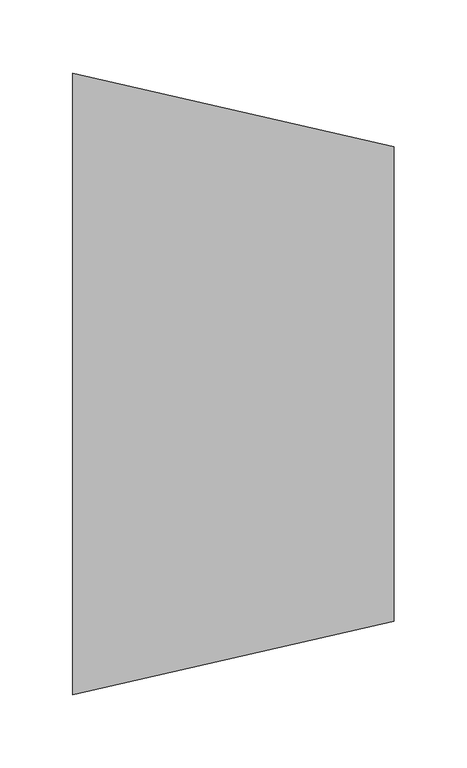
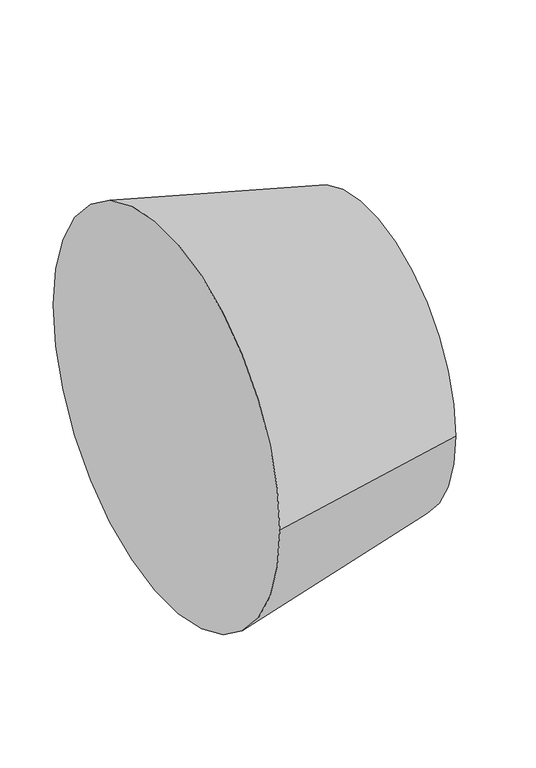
"""IFC4 building model written with IfcOpenShell, lengths in millimetres: pipe fitting geometry, ADSK_ДетальСтальнаяСварная_Переход_ГОСТ17378-2001 : Исполнение 2."""

import ifcopenshell
import ifcopenshell.guid

model = None  # the IFC model being written
_history = None  # IfcOwnerHistory: only IFC2X3 demands one
_inside = {}  # id of a spatial element -> (the spatial element, [elements in it])
_under = {}  # id of a project, library or spatial element -> (it, [spatial elements below it])
_declared = {}  # id of a project -> (the project, [libraries it declares])
_typed = {}  # id of a type object -> (the type object, [elements of that type])
_made_of = {}  # id of a material, layer set ... -> (it, [elements and type objects made of it])


def new_model(schema):
    """Start an empty IFC model of exactly this schema.

    Asked for "IFC4X3", IfcOpenShell would pick the latest addendum, in which some entities
    have other attributes; the version numbers below select the first issue.
    IFC2X3 requires an IfcOwnerHistory on every rooted entity: one is made here for all.
    """
    global model, _history
    if schema == "IFC4X3":
        model = ifcopenshell.file(schema_version=(4, 3, 0, 0))
    else:
        model = ifcopenshell.file(schema=schema)
    _inside.clear()
    _under.clear()
    _declared.clear()
    _typed.clear()
    _made_of.clear()
    _history = None
    if model.schema == "IFC2X3":
        org = make("IfcOrganization", Name="unknown")
        user = make(
            "IfcPersonAndOrganization",
            ThePerson=make("IfcPerson", FamilyName="unknown"),
            TheOrganization=org,
        )
        app = make(
            "IfcApplication",
            ApplicationDeveloper=org,
            Version="unknown",
            ApplicationFullName="unknown",
            ApplicationIdentifier="unknown",
        )
        _history = make(
            "IfcOwnerHistory",
            OwningUser=user,
            OwningApplication=app,
            ChangeAction="ADDED",
            CreationDate=0,
        )
    return model


def make(cls, **values):
    """One entity of the class cls with the attributes given. An attribute that is None is left unset."""
    return model.create_entity(
        cls, **{name: value for name, value in values.items() if value is not None}
    )


def rooted(cls, **values):
    """An entity with a GlobalId (a new one), such as an element, a storey or a relation."""
    return make(cls, GlobalId=ifcopenshell.guid.new(), OwnerHistory=_history, **values)


def si_unit(unit_type, name, prefix=None):
    """IfcSIUnit, for example si_unit("LENGTHUNIT", "METRE", prefix="MILLI")."""
    return make("IfcSIUnit", UnitType=unit_type, Prefix=prefix, Name=name)


def assignment(units):
    """IfcUnitAssignment: the units of a project."""
    return None if units is None else make("IfcUnitAssignment", Units=units)


def point(xyz):
    """IfcCartesianPoint."""
    return None if xyz is None else make("IfcCartesianPoint", Coordinates=xyz)


def direction(xyz):
    """IfcDirection."""
    return None if xyz is None else make("IfcDirection", DirectionRatios=xyz)


def frame(location, z_axis=None, x_axis=None):
    """IfcAxis2Placement3D, a coordinate frame: its origin and axes. An axis left out is left unset."""
    return make(
        "IfcAxis2Placement3D",
        Location=point(location),
        Axis=direction(z_axis),
        RefDirection=direction(x_axis),
    )


def origin():
    """The frame at (0, 0, 0) with its axes left unset."""
    return frame((0.0, 0.0, 0.0))


def place(relative_to, where):
    """IfcLocalPlacement: puts the frame where relative to a parent placement (None: the world)."""
    return make(
        "IfcLocalPlacement", PlacementRelTo=relative_to, RelativePlacement=where
    )


def context(
    kind, dimensions, precision=None, world=None, true_north=None, identifier=None
):
    """IfcGeometricRepresentationContext, for example the 3D "Model" context."""
    return make(
        "IfcGeometricRepresentationContext",
        ContextIdentifier=identifier,
        ContextType=kind,
        CoordinateSpaceDimension=dimensions,
        Precision=precision,
        WorldCoordinateSystem=world,
        TrueNorth=true_north,
    )


def project(units=None, contexts=None):
    """IfcProject with its units and contexts."""
    return rooted(
        "IfcProject",
        Name="project",
        RepresentationContexts=contexts,
        UnitsInContext=assignment(units),
    )


def spatial(cls, under=None, at=None, **own):
    """A site, building, storey or space (cls), placed at a placement, below another one or the project."""
    s = rooted(cls, ObjectPlacement=at, **own)
    if under is not None:
        _under.setdefault(under.id(), (under, []))[1].append(s)
    return s


def polyline(points):
    """IfcPolyline through the points."""
    return make("IfcPolyline", Points=[point(p) for p in points])


def circle_curve(where, radius):
    """IfcCircle in the frame where."""
    return make("IfcCircle", Position=where, Radius=radius)


def shape(context_of_items, identifier, shape_type, items):
    """IfcShapeRepresentation: the items that make up one representation, for example the "Body"."""
    return make(
        "IfcShapeRepresentation",
        ContextOfItems=context_of_items,
        RepresentationIdentifier=identifier,
        RepresentationType=shape_type,
        Items=items,
    )


def source(mapping_origin, context_of_items, identifier, shape_type, items):
    """IfcRepresentationMap: a shape defined once, which mapped items show again and again."""
    return make(
        "IfcRepresentationMap",
        MappingOrigin=mapping_origin,
        MappedRepresentation=shape(context_of_items, identifier, shape_type, items),
    )


def transform(
    local_origin,
    x_axis=None,
    y_axis=None,
    z_axis=None,
    scale=None,
    scale2=None,
    scale3=None,
    uniform=True,
):
    """IfcCartesianTransformationOperator3D, or its non-uniform kind. x_axis, y_axis, z_axis: its Axis1, 2, 3."""
    if uniform:
        return make(
            "IfcCartesianTransformationOperator3D",
            Axis1=direction(x_axis),
            Axis2=direction(y_axis),
            LocalOrigin=point(local_origin),
            Scale=scale,
            Axis3=direction(z_axis),
        )
    return make(
        "IfcCartesianTransformationOperator3DnonUniform",
        Axis1=direction(x_axis),
        Axis2=direction(y_axis),
        LocalOrigin=point(local_origin),
        Scale=scale,
        Axis3=direction(z_axis),
        Scale2=scale2,
        Scale3=scale3,
    )


def mapped(mapping_source, mapping_target):
    """IfcMappedItem: shows the shape of a source again, moved by a transform."""
    return make(
        "IfcMappedItem", MappingSource=mapping_source, MappingTarget=mapping_target
    )


def made_of(thing, what):
    """Note that an element or type object is made of a material, layer set ...; save() writes the relation."""
    if what is not None:
        _made_of.setdefault(what.id(), (what, []))[1].append(thing)
    return thing


def element(
    cls,
    number,
    at=None,
    inside=None,
    cuts=None,
    type_object=None,
    material=None,
    context=None,
    identifier="Body",
    shape_type=None,
    held_by="IfcProductDefinitionShape",
    body=None,
    shapes=None,
    **own,
):
    """One element of the class cls, such as IfcWall. Its Tag is "e" and its number.

    at: its placement. inside: the storey or other place that contains it. cuts: it is an
    opening in that element (IfcRelVoidsElement). A single representation is given by context,
    identifier, shape_type and body (its items); several are given by shapes. held_by: the class
    of the entity that holds the representations. save() writes the other relations.
    """
    e = rooted(cls, Tag="e%d" % number, ObjectPlacement=at, **own)
    if body is not None:
        shapes = [shape(context, identifier, shape_type, body)]
    if shapes is not None:
        e.Representation = make(held_by, Representations=shapes)
    if inside is not None:
        _inside.setdefault(inside.id(), (inside, []))[1].append(e)
    if cuts is not None:
        rooted(
            "IfcRelVoidsElement", RelatingBuildingElement=cuts, RelatedOpeningElement=e
        )
    if type_object is not None:
        _typed.setdefault(type_object.id(), (type_object, []))[1].append(e)
    return made_of(e, material)


def aggregate(whole, parts):
    """IfcRelAggregates: a whole, such as a stair, and the parts it consists of."""
    return rooted("IfcRelAggregates", RelatingObject=whole, RelatedObjects=parts)


def save(model, path):
    """Write the relations noted so far, then the file.

    IfcRelAggregates (storeys below a building ...), IfcRelContainedInSpatialStructure (elements
    in a storey), IfcRelDefinesByType, IfcRelAssociatesMaterial and IfcRelDeclares: one each for
    every whole, place, type object, material and project.
    """
    for whole, parts in _under.values():
        aggregate(whole, parts)
    for where, things in _inside.values():
        rooted(
            "IfcRelContainedInSpatialStructure",
            RelatedElements=things,
            RelatingStructure=where,
        )
    for kind, things in _typed.values():
        rooted("IfcRelDefinesByType", RelatedObjects=things, RelatingType=kind)
    for what, things in _made_of.values():
        rooted("IfcRelAssociatesMaterial", RelatedObjects=things, RelatingMaterial=what)
    for by, libraries in _declared.values():
        rooted("IfcRelDeclares", RelatingContext=by, RelatedDefinitions=libraries)
    model.write(path)


def plane_surface(at):
    """IfcPlane: the flat surface through the origin of the frame at, square to its z axis."""
    return make("IfcPlane", Position=at)


def revolved_surface(curve, axis_point, axis_direction):
    """IfcSurfaceOfRevolution: the curve turned about the line through axis_point along axis_direction."""
    return make(
        "IfcSurfaceOfRevolution",
        SweptCurve=make("IfcArbitraryOpenProfileDef", ProfileType="CURVE", Curve=curve),
        AxisPosition=make("IfcAxis1Placement", Location=point(axis_point), Axis=direction(axis_direction)),
    )


def advanced_brep(points, edges, surfaces, faces):
    """IfcAdvancedBrep: a solid bounded by faces that lie on surfaces and meet in shared edges.

    An edge is (start, end): straight between two places in points (the first is 0);
    or (start, end, curve); or (start, end, curve, False) where it runs against its curve.
    A face is (place in surfaces, loops), or (place, loops, False) where it looks against
    its surface's normal. A loop lists edges by number (the first is 1), with a minus sign
    where the edge is run from its end to its start. The first loop is the outer one.
    """
    corners = [point(p) for p in points]
    vertices = [make("IfcVertexPoint", VertexGeometry=c) for c in corners]
    made = []
    for start, end, *more in edges:
        made.append(
            make(
                "IfcEdgeCurve",
                EdgeStart=vertices[start],
                EdgeEnd=vertices[end],
                EdgeGeometry=more[0] if more else make("IfcPolyline", Points=[corners[start], corners[end]]),
                SameSense=more[1] if len(more) > 1 else True,
            )
        )
    hull = []
    for where, loops, *sense in faces:
        bounds = []
        for j, loop in enumerate(loops):
            ring = [make("IfcOrientedEdge", EdgeElement=made[abs(k) - 1], Orientation=k > 0) for k in loop]
            bounds.append(
                make(
                    "IfcFaceOuterBound" if j == 0 else "IfcFaceBound",
                    Bound=make("IfcEdgeLoop", EdgeList=ring),
                    Orientation=True,
                )
            )
        hull.append(make("IfcAdvancedFace", Bounds=bounds, FaceSurface=surfaces[where], SameSense=sense[0] if sense else True))
    return make("IfcAdvancedBrep", Outer=make("IfcClosedShell", CfsFaces=hull))


def pipe_fitting_65512c19(model_context):
    return source(origin(), model_context, "Body", "AdvancedBrep", [
        advanced_brep(
        [(220.0, -162.5, 0.0), (220.0, 162.5, 0.0), (0.0, -213.0, 0.0), (0.0, 213.0, 0.0)],
        [
            (0, 1, circle_curve(frame((220.0, 0.0, 0.0), z_axis=(1.0, 0.0, 0.0), x_axis=(0.0, -1.0, 0.0)), 162.5)),
            (1, 0, circle_curve(frame((220.0, 0.0, 0.0), z_axis=(1.0, 0.0, 0.0), x_axis=(0.0, 1.0, 0.0)), 162.5)),
            (2, 3, circle_curve(frame((0.0, 0.0, 0.0), z_axis=(-1.0, 0.0, 0.0), x_axis=(0.0, 1.0, 0.0)), 213.0)),
            (3, 2, circle_curve(frame((0.0, 0.0, 0.0), z_axis=(-1.0, 0.0, 0.0), x_axis=(0.0, -1.0, 0.0)), 213.0)),
            (3, 1),
            (0, 2),
        ],
        [
            plane_surface(frame((220.0, 0.0, 0.0), z_axis=(1.0, 0.0, 0.0), x_axis=(0.0, 0.0, -1.0))),
            plane_surface(frame((0.0, 0.0, 0.0), z_axis=(-1.0, 0.0, 0.0), x_axis=(0.0, 0.0, -1.0))),
            revolved_surface(polyline([(220.0, -162.50000000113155, 0.0), (0.0, -213.0, 0.0)]), (927.9207921, 0.0, 0.0), (-1.0, 0.0, 0.0)),
            revolved_surface(polyline([(220.0, 162.50000000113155, 0.0), (0.0, 213.0, 0.0)]), (927.9207921, 0.0, 0.0), (-1.0, 0.0, 0.0)),
        ],
        [
            (0, [[1, 2]]),
            (1, [[3, 4]]),
            (2, [[-4, 5, -1, 6]]),
            (3, [[-3, -6, -2, -5]]),
        ],
    ),
    ])


if __name__ == "__main__":
    model = new_model("IFC4")
    model_context = context("Model", 3, world=origin())
    ifc_project = project(units=[si_unit("LENGTHUNIT", "METRE", prefix="MILLI")], contexts=[model_context])
    site = spatial("IfcSite", under=ifc_project)
    building = spatial("IfcBuilding", under=site)
    placement = place(None, origin())
    pipe_fitting_shape = pipe_fitting_65512c19(model_context)
    element("IfcPipeFitting", 1, ObjectType="ADSK_ДетальСтальнаяСварная_Переход_ГОСТ17378-2001 : Исполнение 2", at=placement, inside=building, context=model_context, shape_type="MappedRepresentation", body=[
        mapped(pipe_fitting_shape, transform((0.0, 0.0, 0.0), x_axis=(1.0, 0.0, 0.0), y_axis=(0.0, 1.0, 0.0), z_axis=(0.0, 0.0, 1.0))),
    ])
    save(model, "model.ifc")
